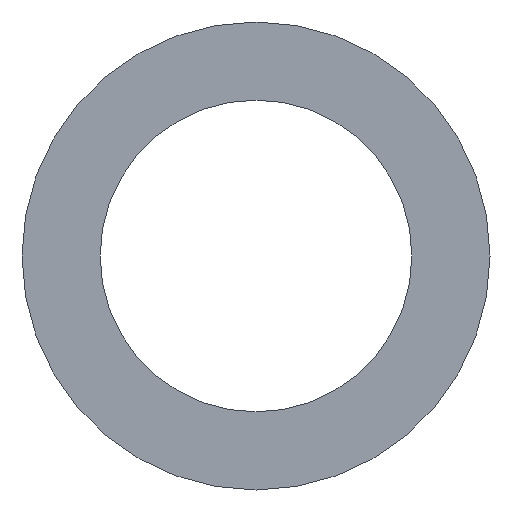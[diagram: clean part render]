
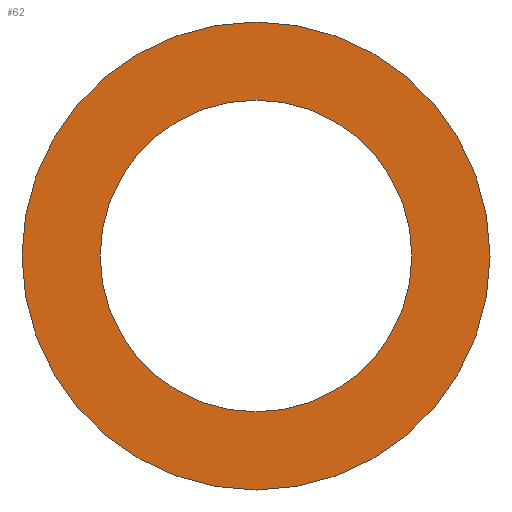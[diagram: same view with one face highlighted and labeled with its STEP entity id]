
A CAD part, front view. The second image highlights one B-rep face of the part: STEP entity #62.
In plain terms, the highlighted planar face has unit normal (0, -1, 0).
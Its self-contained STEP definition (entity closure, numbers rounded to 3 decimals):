
#20=PLANE('',#83);
#26=ORIENTED_EDGE('',*,*,#30,.T.);
#27=ORIENTED_EDGE('',*,*,#32,.F.);
#30=EDGE_CURVE('',#34,#34,#38,.T.);
#32=EDGE_CURVE('',#36,#36,#40,.T.);
#34=VERTEX_POINT('',#106);
#36=VERTEX_POINT('',#111);
#38=CIRCLE('',#78,205.5);
#40=CIRCLE('',#81,308.5);
#46=EDGE_LOOP('',(#26));
#47=EDGE_LOOP('',(#27));
#54=FACE_BOUND('',#46,.T.);
#55=FACE_BOUND('',#47,.T.);
#62=ADVANCED_FACE('',(#54,#55),#20,.F.);
#78=AXIS2_PLACEMENT_3D('',#105,#89,#90);
#81=AXIS2_PLACEMENT_3D('',#110,#95,#96);
#83=AXIS2_PLACEMENT_3D('',#114,#99,#100);
#89=DIRECTION('',(0.,1.,0.));
#90=DIRECTION('',(1.,0.,0.));
#95=DIRECTION('',(0.,1.,0.));
#96=DIRECTION('',(1.,0.,0.));
#99=DIRECTION('',(0.,1.,0.));
#100=DIRECTION('',(0.,0.,1.));
#105=CARTESIAN_POINT('',(0.,-1.5,0.));
#106=CARTESIAN_POINT('',(205.5,-1.5,0.));
#110=CARTESIAN_POINT('',(0.,-1.5,0.));
#111=CARTESIAN_POINT('',(308.5,-1.5,0.));
#114=CARTESIAN_POINT('',(0.,-1.5,0.));
